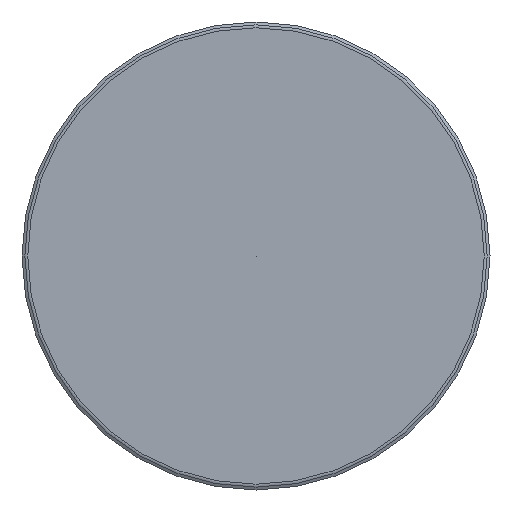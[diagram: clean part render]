
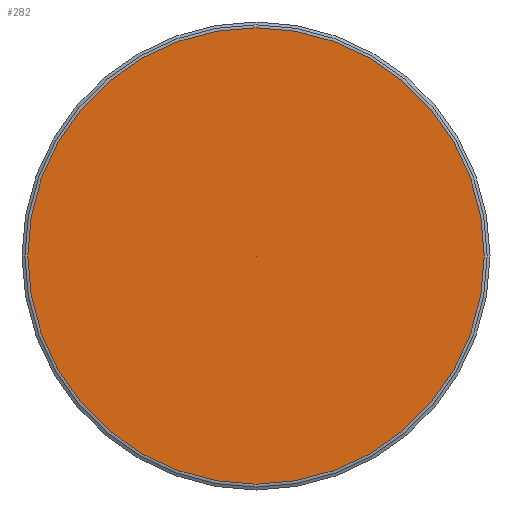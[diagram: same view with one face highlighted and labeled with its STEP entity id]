
A CAD part, front view. The second image highlights one B-rep face of the part: STEP entity #282.
In plain terms, the highlighted conical face has half-angle 89.994 degrees and reference radius 47.06 mm.
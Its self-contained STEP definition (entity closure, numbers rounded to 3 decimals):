
#266=CARTESIAN_POINT('',(0.0,0.005,0.0));
#267=DIRECTION('',(0.0,1.0,0.0));
#268=DIRECTION('',(-1.0,0.0,0.0));
#269=AXIS2_PLACEMENT_3D('',#266,#267,#268);
#270=CONICAL_SURFACE('',#269,47.06,89.994);
#271=CARTESIAN_POINT('',(-94.121,0.009,0.0));
#272=VERTEX_POINT('',#271);
#273=CARTESIAN_POINT('',(0.0,0.009,0.0));
#274=DIRECTION('',(0.0,1.0,0.0));
#275=DIRECTION('',(-1.0,0.0,0.0));
#276=AXIS2_PLACEMENT_3D('',#273,#274,#275);
#277=CIRCLE('',#276,94.121);
#278=EDGE_CURVE('',#272,#272,#277,.T.);
#279=ORIENTED_EDGE('',*,*,#278,.F.);
#280=EDGE_LOOP('',(#279));
#281=FACE_OUTER_BOUND('',#280,.T.);
#282=ADVANCED_FACE('',(#281),#270,.T.);
